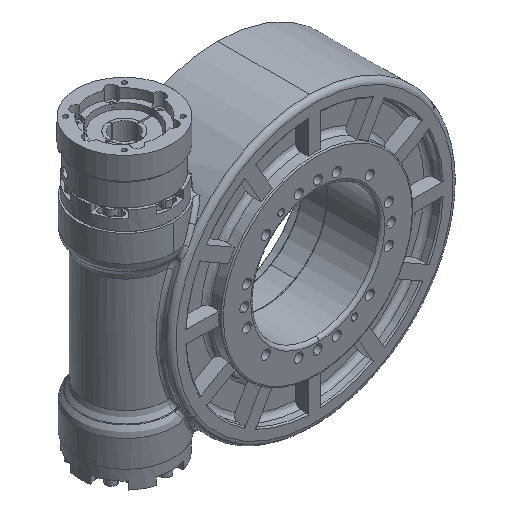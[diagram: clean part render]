
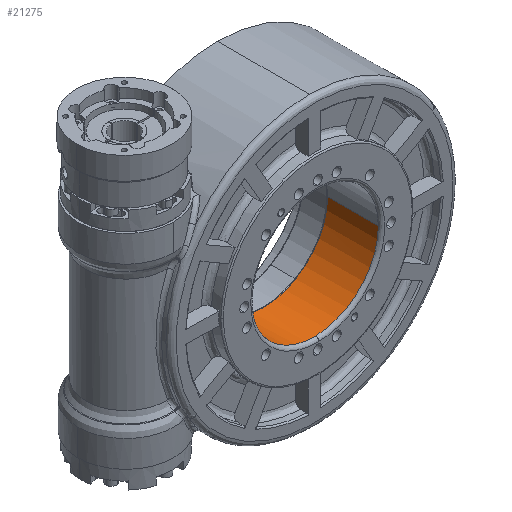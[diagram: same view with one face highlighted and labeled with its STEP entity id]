
A CAD part, isometric view. The second image highlights one B-rep face of the part: STEP entity #21275.
In plain terms, the highlighted cylindrical face has radius 100 mm (diameter 200 mm), a partial arc.
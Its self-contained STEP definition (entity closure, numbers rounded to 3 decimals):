
#659 = LINE ( 'NONE', #18213, #53388 ) ;
#739 = CYLINDRICAL_SURFACE ( 'NONE', #27104, 100. ) ;
#2563 = CARTESIAN_POINT ( 'NONE',  ( 100., 60., 0. ) ) ;
#4619 = CIRCLE ( 'NONE', #24840, 100. ) ;
#4763 = CARTESIAN_POINT ( 'NONE',  ( 0., 60., 0. ) ) ;
#4795 = CIRCLE ( 'NONE', #25992, 100. ) ;
#4797 = CARTESIAN_POINT ( 'NONE',  ( 0., 60., 0. ) ) ;
#5941 = DIRECTION ( 'NONE',  ( 0., -1., 0. ) ) ;
#7467 = ORIENTED_EDGE ( 'NONE', *, *, #29930, .T. ) ;
#11568 = CARTESIAN_POINT ( 'NONE',  ( 0., -20., 0. ) ) ;
#11671 = CIRCLE ( 'NONE', #34797, 100. ) ;
#11850 = DIRECTION ( 'NONE',  ( 0., -1., 0. ) ) ;
#13391 = ORIENTED_EDGE ( 'NONE', *, *, #54923, .T. ) ;
#13633 = DIRECTION ( 'NONE',  ( 1., 0., 0. ) ) ;
#16022 = VERTEX_POINT ( 'NONE', #43957 ) ;
#16415 = CARTESIAN_POINT ( 'NONE',  ( 1.535, -20., -99.988 ) ) ;
#18213 = CARTESIAN_POINT ( 'NONE',  ( -100., 60., 0. ) ) ;
#18770 = DIRECTION ( 'NONE',  ( 0.015, 0., -1. ) ) ;
#18863 = DIRECTION ( 'NONE',  ( 1., 0., 0. ) ) ;
#21275 = ADVANCED_FACE ( 'NONE', ( #23209 ), #739, .F. ) ;
#21488 = ORIENTED_EDGE ( 'NONE', *, *, #54728, .F. ) ;
#23209 = FACE_OUTER_BOUND ( 'NONE', #40890, .T. ) ;
#23734 = EDGE_CURVE ( 'NONE', #52528, #48034, #4795, .T. ) ;
#24840 = AXIS2_PLACEMENT_3D ( 'NONE', #54369, #36755, #18770 ) ;
#24916 = VERTEX_POINT ( 'NONE', #2563 ) ;
#25992 = AXIS2_PLACEMENT_3D ( 'NONE', #11568, #11850, #29497 ) ;
#27104 = AXIS2_PLACEMENT_3D ( 'NONE', #4797, #5941, #18863 ) ;
#28937 = CARTESIAN_POINT ( 'NONE',  ( 100., 60., 0. ) ) ;
#29497 = DIRECTION ( 'NONE',  ( -0.015, 0., 1. ) ) ;
#29930 = EDGE_CURVE ( 'NONE', #16022, #52528, #659, .T. ) ;
#34797 = AXIS2_PLACEMENT_3D ( 'NONE', #4763, #53527, #13633 ) ;
#36624 = CARTESIAN_POINT ( 'NONE',  ( -100., -20., 0. ) ) ;
#36755 = DIRECTION ( 'NONE',  ( 0., -1., 0. ) ) ;
#40890 = EDGE_LOOP ( 'NONE', ( #45592, #7467, #51087, #13391, #21488 ) ) ;
#43957 = CARTESIAN_POINT ( 'NONE',  ( -100., 60., 0. ) ) ;
#45592 = ORIENTED_EDGE ( 'NONE', *, *, #51706, .T. ) ;
#46942 = VERTEX_POINT ( 'NONE', #54690 ) ;
#47914 = VECTOR ( 'NONE', #51225, 1000. ) ;
#48034 = VERTEX_POINT ( 'NONE', #16415 ) ;
#51087 = ORIENTED_EDGE ( 'NONE', *, *, #23734, .T. ) ;
#51225 = DIRECTION ( 'NONE',  ( 0., -1., 0. ) ) ;
#51706 = EDGE_CURVE ( 'NONE', #24916, #16022, #11671, .T. ) ;
#51781 = LINE ( 'NONE', #28937, #47914 ) ;
#52528 = VERTEX_POINT ( 'NONE', #36624 ) ;
#53388 = VECTOR ( 'NONE', #56703, 1000. ) ;
#53527 = DIRECTION ( 'NONE',  ( 0., 1., 0. ) ) ;
#54369 = CARTESIAN_POINT ( 'NONE',  ( 0., -20., 0. ) ) ;
#54690 = CARTESIAN_POINT ( 'NONE',  ( 100., -20., 0. ) ) ;
#54728 = EDGE_CURVE ( 'NONE', #24916, #46942, #51781, .T. ) ;
#54923 = EDGE_CURVE ( 'NONE', #48034, #46942, #4619, .T. ) ;
#56703 = DIRECTION ( 'NONE',  ( 0., -1., 0. ) ) ;
